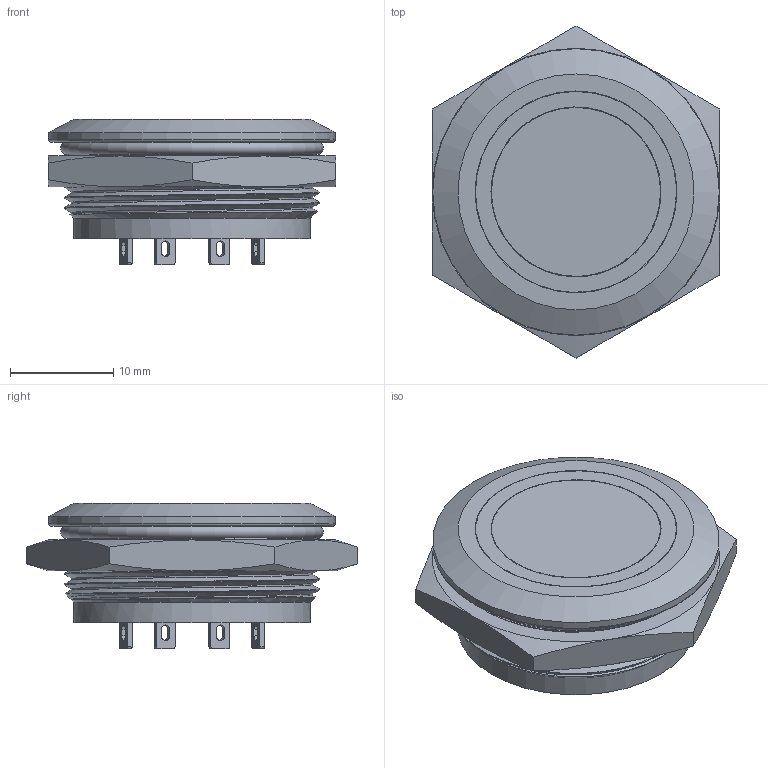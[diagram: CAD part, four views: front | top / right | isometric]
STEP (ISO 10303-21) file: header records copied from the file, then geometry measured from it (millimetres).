
FILE_DESCRIPTION(/* description */ (''),/* implementation_level */ '2;1');
FILE_NAME(/* name */ 'FM25S-SFP-10D1.stp',/* time_stamp */ '2020-08-05T11:17:03+08:00',/* author */ (''),/* organization */ (''),/* preprocessor_version */ 'ST-DEVELOPER v16.7',/* originating_system */ 'SIEMENS PLM Software NX 12.0',/* authorisation */ '');
FILE_SCHEMA (('AUTOMOTIVE_DESIGN { 1 0 10303 214 3 1 1 1 }'));
Length unit declared in the file: millimetre
Products named in the file (1): Admi4F983F75j4px
Bounding box: 27.9 x 32.22 x 14.1 mm (x, y, z)
Volume: 4622.7 mm3; surface area: 5318.3 mm2
Topology: 2 solids, 4 shells, 245 faces, 613 edges, 406 vertices
Faces by surface type: plane 162, cylinder 47, cone 16, extrusion 12, bspline 6, torus 2
Full cylindrical faces by diameter (mm): 16.4 x1, 16.5 x1, 19.5 x1, 19.6 x1, 20.3 x1, 22.1 x2, 22.2 x2, 23 x1, 27.8 x1
Entity records: 10034 total; most frequent: CARTESIAN_POINT 3798, ORIENTED_EDGE 1166, DIRECTION 1085, EDGE_CURVE 583, VECTOR 409, LINE 397, VERTEX_POINT 394, AXIS2_PLACEMENT_3D 338
